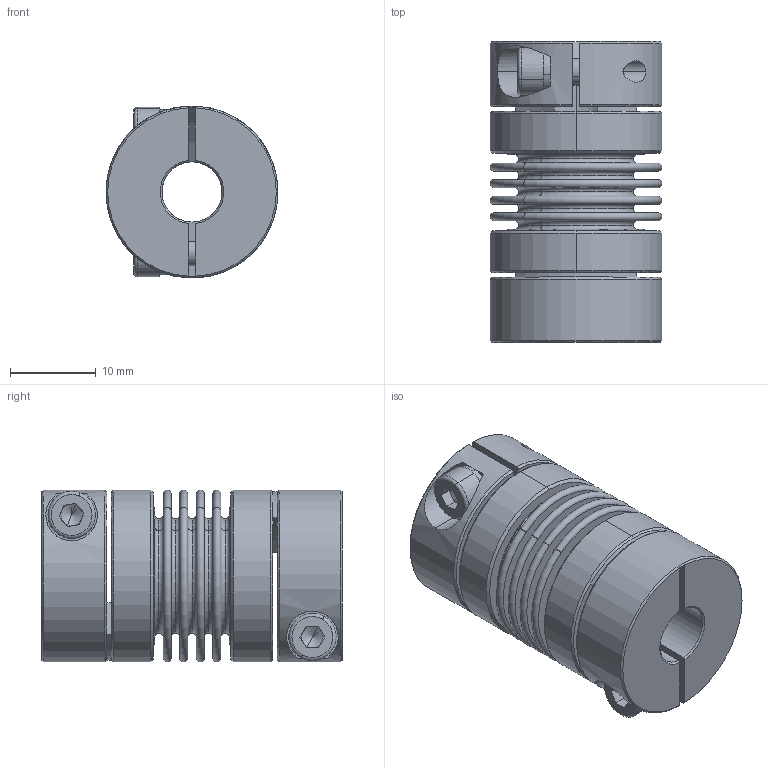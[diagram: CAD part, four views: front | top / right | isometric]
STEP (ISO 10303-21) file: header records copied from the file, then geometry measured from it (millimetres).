
FILE_DESCRIPTION (( 'STEP AP203' ), '1' );
FILE_NAME ('LB-B-D20L34-7-8.STEP', '2021-11-04T01:42:50', ( '' ), ( '' ), 'SwSTEP 2.0', 'SolidWorks 2018', '' );
FILE_SCHEMA (( 'CONFIG_CONTROL_DESIGN' ));
Length unit declared in the file: millimetre
Products named in the file (2): LB-B-D20L34-7-8; 零件4^LB-B-D20L34 波纹管联轴器-组装体
Assembly tree (1 placements, depth 2):
  LB-B-D20L34-7-8
    零件4^LB-B-D20L34 波纹管联轴器-组装体
Bounding box: 20 x 35 x 20 mm (x, y, z)
Volume: 5804.3 mm3; surface area: 9505.1 mm2
Topology: 1 solids, 1 shells, 246 faces, 566 edges, 350 vertices
Faces by surface type: plane 84, torus 68, cylinder 60, cone 34
Entity records: 7446 total; most frequent: CARTESIAN_POINT 1462, DIRECTION 1370, ORIENTED_EDGE 1124, AXIS2_PLACEMENT_3D 602, EDGE_CURVE 562, CIRCLE 352, VERTEX_POINT 350, EDGE_LOOP 288
